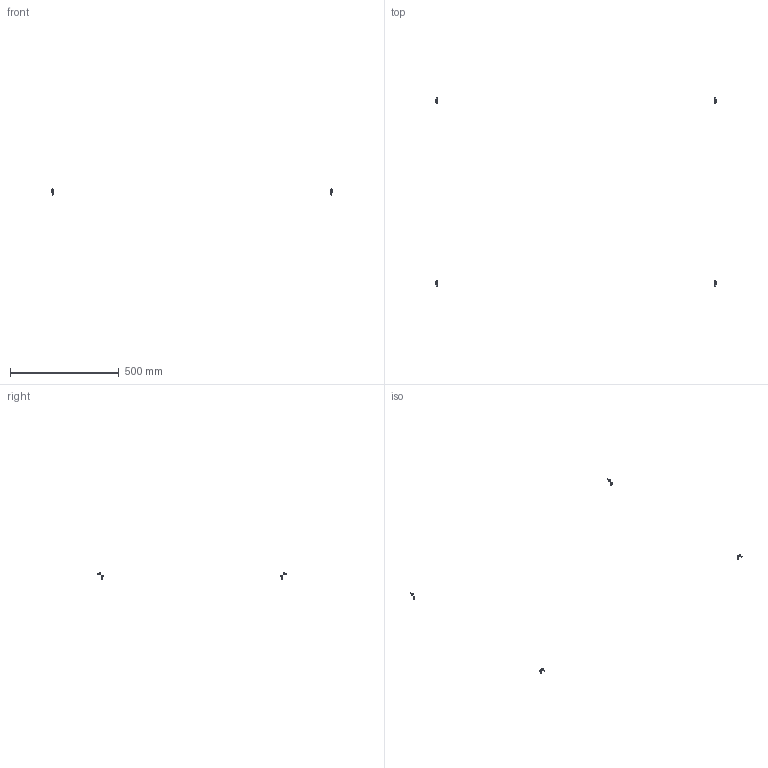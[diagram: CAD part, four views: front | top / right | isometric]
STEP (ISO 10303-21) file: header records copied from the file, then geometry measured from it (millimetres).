
FILE_DESCRIPTION(/* description */ (''),/* implementation_level */ '2;1');
FILE_NAME(/* name */ '12.frame-table#12.3#CB5-10',/* time_stamp */ '2014-12-01T20:19:41+01:00',/* author */ (''),/* organization */ (''),/* preprocessor_version */ 'ST-DEVELOPER v14',/* originating_system */ '',/* authorisation */ '');
FILE_SCHEMA (('AUTOMOTIVE_DESIGN'));
Length unit declared in the file: millimetre
Products named in the file (2): Document; screw DIN912-like, M5x10
Assembly tree (4 placements, depth 2):
  Document
    screw DIN912-like, M5x10  x4
Bounding box: 1288.5 x 871 x 27.74 mm (x, y, z)
Volume: 3507.4 mm3; surface area: 3411 mm2
Topology: 8 solids, 8 shells, 200 faces, 448 edges, 264 vertices
Faces by surface type: plane 120, bspline 80
Entity records: 6853 total; most frequent: CARTESIAN_POINT 3147, B_SPLINE_CURVE_WITH_KNOTS 630, ORIENTED_EDGE 540, PCURVE 540, DEFINITIONAL_REPRESENTATION 540, SURFACE_CURVE 270, EDGE_CURVE 270, VERTEX_POINT 165
